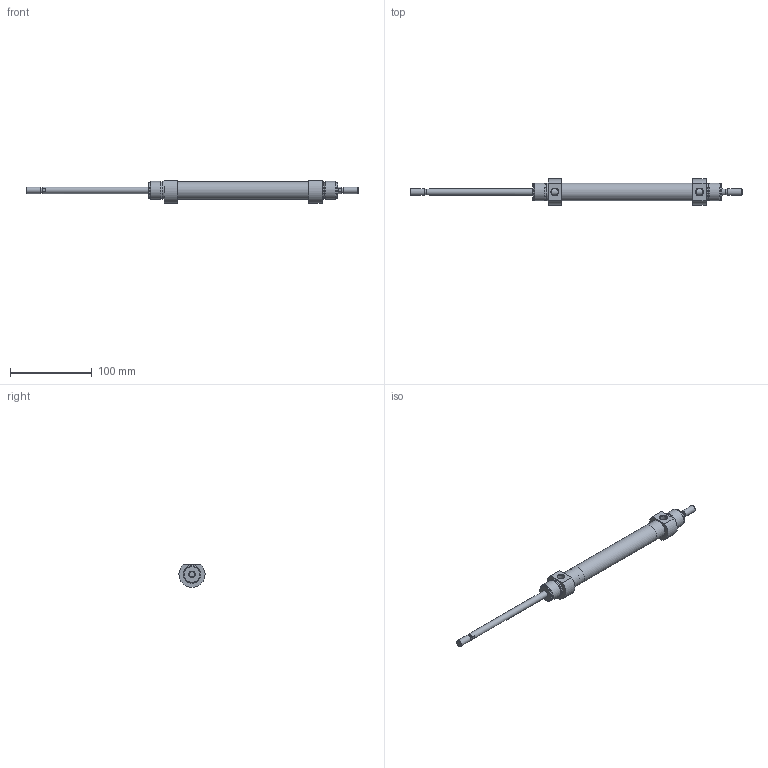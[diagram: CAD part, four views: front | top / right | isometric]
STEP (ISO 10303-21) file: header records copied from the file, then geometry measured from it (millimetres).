
FILE_DESCRIPTION( ( 'STEP AP203' ), '1' );
FILE_NAME( '//expscmdclustefs.cadenas.external/client_exchange/iodir/jobs/output/wkb68459273_no0/STEP/M101-020-0125--__0__2_03.stp', ' ', ( ' ' ), ( ' ' ), 'PSStep 15.0.47', 'PARTsolutions', ' ' );
FILE_SCHEMA( ( 'CONFIG_CONTROL_DESIGN' ) );
Length unit declared in the file: millimetre
Products named in the file (3): M101-020-0125-- [0]; HI_M101-020-0125---[0]-z; HI_M101-020-0125---[0]-k
Assembly tree (2 placements, depth 2):
  M101-020-0125-- [0]
    HI_M101-020-0125---[0]-z
    HI_M101-020-0125---[0]-k
Bounding box: 406 x 32 x 28 mm (x, y, z)
Volume: 71560.7 mm3; surface area: 41614 mm2
Topology: 2 solids, 2 shells, 65 faces, 129 edges, 80 vertices
Faces by surface type: plane 26, cylinder 23, cone 14, torus 2
Full cylindrical faces by diameter (mm): 6.466 x2, 8 x6, 8.566 x2, 20 x2, 20.16 x4, 21.6 x1, 22 x4
Entity records: 1702 total; most frequent: CARTESIAN_POINT 356, DIRECTION 280, ORIENTED_EDGE 184, AXIS2_PLACEMENT_3D 128, EDGE_LOOP 116, EDGE_CURVE 92, FACE_OUTER_BOUND 88, VERTEX_POINT 76
